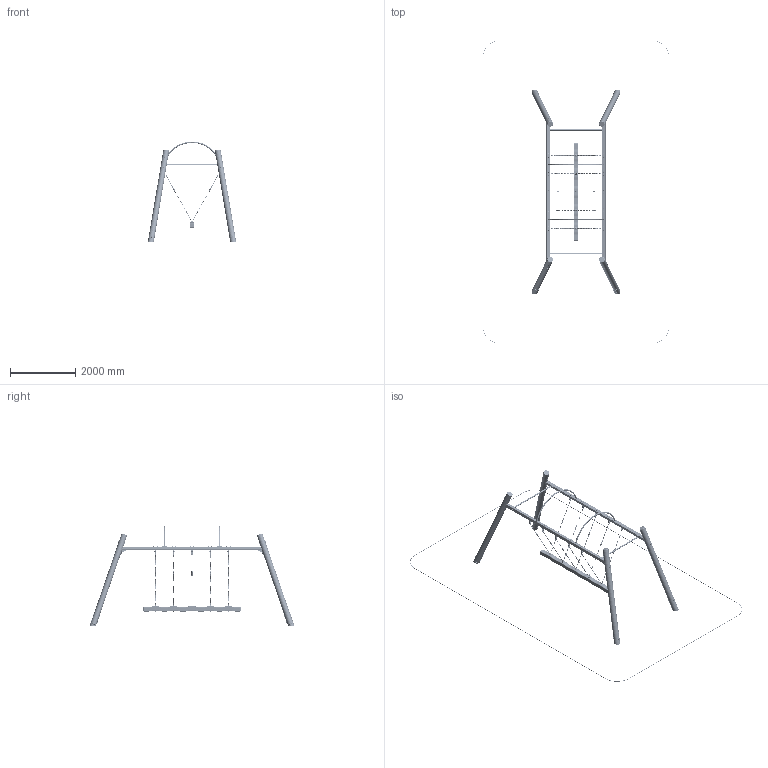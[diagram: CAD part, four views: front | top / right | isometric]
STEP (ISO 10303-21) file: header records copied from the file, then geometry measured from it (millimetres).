
FILE_DESCRIPTION(('STEP AP214'), '1');
FILE_NAME('任-95', '', ('UNSPECIFIED'), ('UNSPECIFIED'), 'C3D Converter', 'C3D Toolkit', '');
FILE_SCHEMA(('AUTOMOTIVE_DESIGN { 1 0 10303 214 3 1 1}'));
Length unit declared in the file: millimetre
Products named in the file (88): ИО-95; OpM-01; BaM-01; ИО-95-00.01.01; ИО-95-00.01.02; DuM-01; ИО-95-00.02.01; ИО-95-00.02.02; RaM-01; ИО-95-00.03.01; ИО-95-00.03.02; КИ-01.4-9017; КИ-008.02; КИ-008.01; ZaK-01; -01; TPD10; ПВГн150-3; КЧМ6КС; ПФРЧП6_1
Assembly tree (460 placements, depth 4):
  ИО-95
    OpM-01  x4
    BaM-01  x2
      (unnamed)
      (unnamed)
      ИО-95-00.01.01
      ИО-95-00.01.02
      ИО-95-00.01.02
    DuM-01  x2
      ИО-95-00.02.01
      ИО-95-00.02.02
    RaM-01  x2
      ИО-95-00.03.01
      ИО-95-00.03.02
      ИО-95-00.03.02
    КИ-01.4-9017  x34
      КИ-008.02
      КИ-008.01
    КИ-01.4-9017  x18
      КИ-008.02
      КИ-008.01
    ZaK-01
      (unnamed)
      -01
      (unnamed)
      (unnamed)
      (unnamed)
      -01  x2
    ZaK-01
      (unnamed)
      -01
      (unnamed)
      (unnamed)
      (unnamed)
      -01  x2
    ZaK-01
      (unnamed)
      -01
      (unnamed)
      (unnamed)
      (unnamed)
      -01  x2
    ZaK-01
      (unnamed)
      -01
      (unnamed)
      (unnamed)
      (unnamed)
      -01  x2
    ZaK-01
      (unnamed)
      -01
      (unnamed)
      (unnamed)
      (unnamed)
      -01  x2
    ZaK-01
      (unnamed)
      -01
      (unnamed)
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Bounding box: 5712.39 x 9289.62 x 3095.64 mm (x, y, z)
Volume: 387370516.7 mm3; surface area: 23741786.3 mm2
Topology: 1379 solids, 1379 shells, 11908 faces, 26631 edges, 15756 vertices
Faces by surface type: plane 4030, cylinder 3635, torus 2189, bspline 1040, cone 737, sphere 277
Full cylindrical faces by diameter (mm): 4.5 x96, 4.917 x10, 6 x10, 6.3 x1840, 6.5 x20, 6.6 x10, 8 x20, 8.3 x80, 8.376 x20, 8.5 x32, 10 x20, 10.106 x5, 10.5 x60, 10.8 x20, 11 x80, 12 x67, 12.5 x80, 13 x5, 14 x5, 16 x50, 18 x5, 20 x80, 21 x20, 26 x52, 29 x15, 30 x52, 35.9 x2, 42.3 x2, 43.5 x4, 44.5 x4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
Entity records: 98726 total; most frequent: CARTESIAN_POINT 46712, DIRECTION 7156, ORIENTED_EDGE 6246, EDGE_CURVE 3123, AXIS2_PLACEMENT_3D 2799, VERTEX_POINT 2105, EDGE_LOOP 1898, LINE 1558
